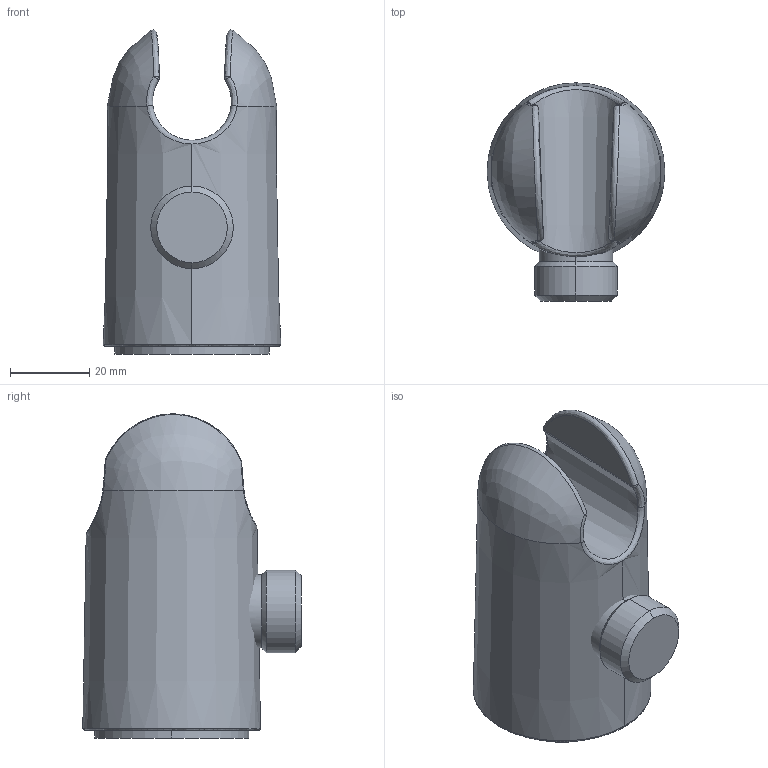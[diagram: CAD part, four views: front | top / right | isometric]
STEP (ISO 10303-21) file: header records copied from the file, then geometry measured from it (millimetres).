
FILE_DESCRIPTION (( 'STEP AP203' ), '1' );
FILE_NAME ('290019(2024).STEP', '2024-01-17T12:19:27', ( '' ), ( '' ), 'SwSTEP 2.0', 'SolidWorks 2016', '' );
FILE_SCHEMA (( 'CONFIG_CONTROL_DESIGN' ));
Length unit declared in the file: millimetre
Products named in the file (1): 290019(2024)
Bounding box: 44.98 x 55.29 x 82.09 mm (x, y, z)
Surface area: 15327.1 mm2 (no closed solid volume)
Topology: 0 solids, 2 shells, 42 faces, 100 edges, 60 vertices
Faces by surface type: bspline 22, cone 9, cylinder 6, plane 5
Entity records: 3050 total; most frequent: CARTESIAN_POINT 2233, ORIENTED_EDGE 192, DIRECTION 104, EDGE_CURVE 96, VERTEX_POINT 60, AXIS2_PLACEMENT_3D 45, EDGE_LOOP 44, ADVANCED_FACE 42
